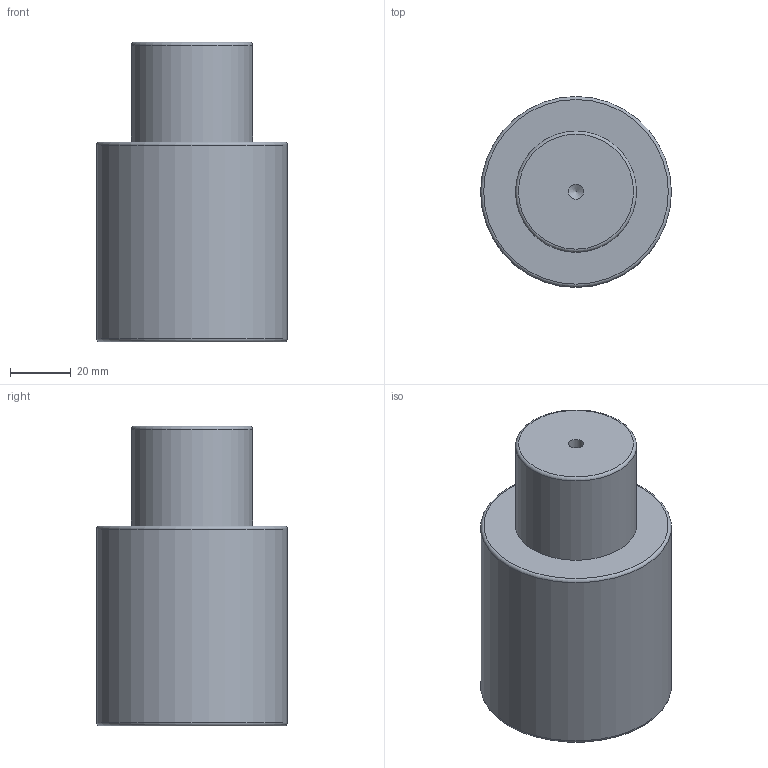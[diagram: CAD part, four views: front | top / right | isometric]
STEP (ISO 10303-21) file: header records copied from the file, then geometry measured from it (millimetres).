
FILE_DESCRIPTION(/* description */ (''),/* implementation_level */ '2;1');
FILE_NAME(/* name */ 'NV5-SMLX.63x32.stp',/* time_stamp */ '2018-08-31T16:08:31+02:00',/* author */ (''),/* organization */ (''),/* preprocessor_version */ 'ST-DEVELOPER v16',/* originating_system */ 'SIEMENS PLM Software NX 10.0',/* authorisation */ '');
FILE_SCHEMA (('AUTOMOTIVE_DESIGN { 1 0 10303 214 3 1 1 1 }'));
Length unit declared in the file: millimetre
Products named in the file (1): NV5-SMLX.63x32
Bounding box: 63 x 63 x 99 mm (x, y, z)
Volume: 245687.2 mm3; surface area: 23938.6 mm2
Topology: 1 solids, 1 shells, 12 faces, 24 edges, 15 vertices
Faces by surface type: cylinder 4, torus 3, plane 3, cone 2
Full cylindrical faces by diameter (mm): 5 x1, 8.5 x1, 40 x1, 63 x1
Entity records: 266 total; most frequent: DIRECTION 48, CARTESIAN_POINT 37, FACE_BOUND 24, AXIS2_PLACEMENT_3D 24, EDGE_LOOP 22, ORIENTED_EDGE 22, VERTEX_POINT 13, ADVANCED_FACE 12
